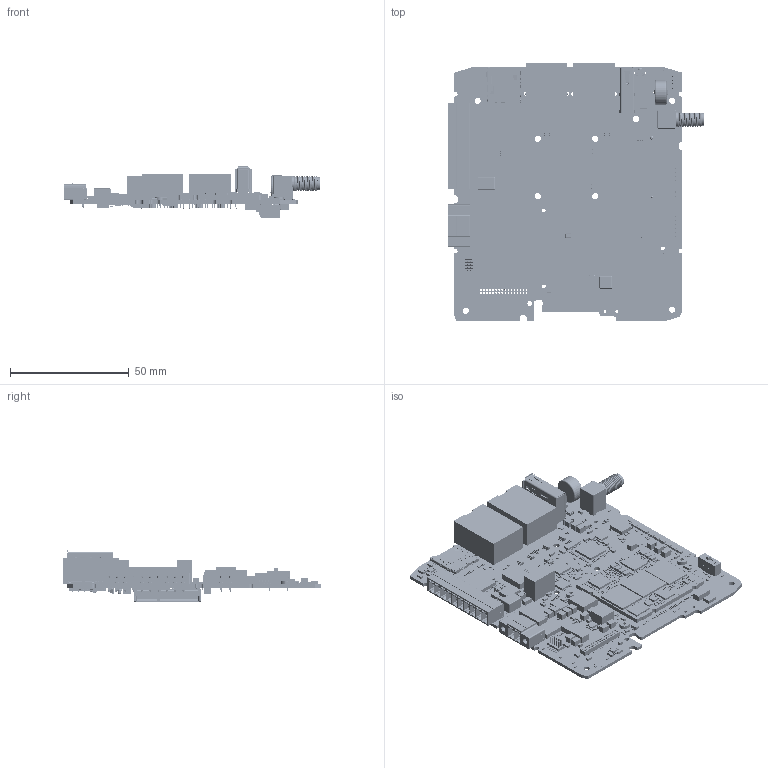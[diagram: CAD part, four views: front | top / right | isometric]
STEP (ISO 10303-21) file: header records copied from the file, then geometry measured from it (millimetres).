
FILE_DESCRIPTION(('STEP AP214'),'1');
FILE_NAME('PBA-CD-19_BoardAndModels.step','2021-01-26T13:56:32',(' '),(' '),'Spatial InterOp 3D','XD3DPlugin XRACreate',' ');
FILE_SCHEMA(('automotive_design'));
Length unit declared in the file: millimetre
Products named in the file (338): Submodel-N:\GROUP\DEVELOP\HARDWARE\PBA-CD-19_phyGATE-Tauri_L_iMX8MM\Design\1556.2\PCB\Layout\3D\Input_S\C0402C270F5GAC_0.xtd; C0402C270F5GAC_0; Submodel-CAP3193_part_simplified_0402-C3; DesignRootModel; Submodel-N:\GROUP\DEVELOP\HARDWARE\PBA-CD-19_phyGATE-Tauri_L_iMX8MM\Design\1556.2\PCB\Layout\3D\Input_S\RCC-0402-1000F.xtd; RCC-0402-1000F; Submodel-RES1982_part_simplified_0402-C3; Submodel-N:\GROUP\DEVELOP\HARDWARE\PBA-CD-19_phyGATE-Tauri_L_iMX8MM\Design\1556.2\PCB\Layout\3D\Input_S\JUMP32.xtd; JUMP32; Submodel-JUMP32_part_simplified_J1X3-0402-C3; Submodel-RES5983_part_simplified_0402-C3; Submodel-N:\GROUP\DEVELOP\HARDWARE\PBA-CD-19_phyGATE-Tauri_L_iMX8MM\Design\1556.2\PCB\Layout\3D\Input_S\xd_sot23_4.xtd; xd_sot23_4; Submodel-TRANSISTOR22_part_simplified_SOT23-FET-C3; Submodel-RES1532_part_simplified_0402-C3; Submodel-N:\GROUP\DEVELOP\HARDWARE\PBA-CD-19_phyGATE-Tauri_L_iMX8MM\Design\1556.2\PCB\Layout\3D\Input_S\pxc_1844294_05_MC-1-5-10-G-3-5_3D.xtd; pxc_1844294_05_MC-1-5-10-G-3-5_3D; Submodel-CONN13573_part_simplified_X1X10-3_comma_5mm-Phoenix-STL1550; Submodel-N:\GROUP\DEVELOP\HARDWARE\PBA-CD-19_phyGATE-Tauri_L_iMX8MM\Design\1556.2\PCB\Layout\3D\Input_S\REMOVE_CONN2292.xtd; REMOVE_CONN2292; Submodel-CONN2292_part_simplified_Testpunkt-1mm; Submodel-RES802_part_simplified_0402-C3; Submodel-RES2002_part_simplified_0402-C3; Submodel-N:\GROUP\DEVELOP\HARDWARE\PBA-CD-19_phyGATE-Tauri_L_iMX8MM\Design\1556.2\PCB\Layout\3D\Input_S\LQM21NN3R3K10L.xtd; LQM21NN3R3K10L; Submodel-FILTER2_part_simplified_0805-C3; Submodel-N:\GROUP\DEVELOP\HARDWARE\PBA-CD-19_phyGATE-Tauri_L_iMX8MM\Design\1556.2\PCB\Layout\3D\Input_S\1210_SMD.xtd; 1210_SMD; Submodel-CAP1122_part_simplified_1210-C3; Submodel-RES1972_part_simplified_0402-C3; Submodel-N:\GROUP\DEVELOP\HARDWARE\PBA-CD-19_phyGATE-Tauri_L_iMX8MM\Design\1556.2\PCB\Layout\3D\Input_S\CC1210KRX7R8BB106.xtd; CC1210KRX7R8BB106; Submodel-CAP3252_part_simplified_1210-C3; Submodel-N:\GROUP\DEVELOP\HARDWARE\PBA-CD-19_phyGATE-Tauri_L_iMX8MM\Design\1556.2\PCB\Layout\3D\Input_S\xd_sot23_7.xtd; xd_sot23_7; Submodel-TRANSISTOR12_part_simplified_SOT23-FET-C3; Submodel-CAP2183_part_simplified_0402-C3; Submodel-N:\GROUP\DEVELOP\HARDWARE\PBA-CD-19_phyGATE-Tauri_L_iMX8MM\Design\1556.2\PCB\Layout\3D\Input_S\MLF2012K390MT.xtd; MLF2012K390MT; Submodel-VARIST2_part_simplified_0805-C3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
Assembly tree (809 placements, depth 5):
  PBA-CD-19_BoardAndModels
    DesignRootModel
      Submodel-CAP3193_part_simplified_0402-C3  x125
        Submodel-N:\GROUP\DEVELOP\HARDWARE\PBA-CD-19_phyGATE-Tauri_L_iMX8MM\Design\1556.2\PCB\Layout\3D\Input_S\C0402C270F5GAC_0.xtd
          C0402C270F5GAC_0
      Submodel-RES1982_part_simplified_0402-C3  x81
        Submodel-N:\GROUP\DEVELOP\HARDWARE\PBA-CD-19_phyGATE-Tauri_L_iMX8MM\Design\1556.2\PCB\Layout\3D\Input_S\RCC-0402-1000F.xtd
          RCC-0402-1000F
      Submodel-JUMP32_part_simplified_J1X3-0402-C3  x11
        Submodel-N:\GROUP\DEVELOP\HARDWARE\PBA-CD-19_phyGATE-Tauri_L_iMX8MM\Design\1556.2\PCB\Layout\3D\Input_S\JUMP32.xtd
          JUMP32
      Submodel-RES5983_part_simplified_0402-C3  x2
        Submodel-N:\GROUP\DEVELOP\HARDWARE\PBA-CD-19_phyGATE-Tauri_L_iMX8MM\Design\1556.2\PCB\Layout\3D\Input_S\RCC-0402-1000F.xtd
          RCC-0402-1000F
      Submodel-TRANSISTOR22_part_simplified_SOT23-FET-C3  x3
        Submodel-N:\GROUP\DEVELOP\HARDWARE\PBA-CD-19_phyGATE-Tauri_L_iMX8MM\Design\1556.2\PCB\Layout\3D\Input_S\xd_sot23_4.xtd
          xd_sot23_4
      Submodel-RES1532_part_simplified_0402-C3  x22
        Submodel-N:\GROUP\DEVELOP\HARDWARE\PBA-CD-19_phyGATE-Tauri_L_iMX8MM\Design\1556.2\PCB\Layout\3D\Input_S\RCC-0402-1000F.xtd
          RCC-0402-1000F
      Submodel-CONN13573_part_simplified_X1X10-3_comma_5mm-Phoenix-STL1550
        Submodel-N:\GROUP\DEVELOP\HARDWARE\PBA-CD-19_phyGATE-Tauri_L_iMX8MM\Design\1556.2\PCB\Layout\3D\Input_S\pxc_1844294_05_MC-1-5-10-G-3-5_3D.xtd
          pxc_1844294_05_MC-1-5-10-G-3-5_3D
      Submodel-CONN2292_part_simplified_Testpunkt-1mm  x38
        Submodel-N:\GROUP\DEVELOP\HARDWARE\PBA-CD-19_phyGATE-Tauri_L_iMX8MM\Design\1556.2\PCB\Layout\3D\Input_S\REMOVE_CONN2292.xtd
          REMOVE_CONN2292
      Submodel-RES802_part_simplified_0402-C3  x7
        Submodel-N:\GROUP\DEVELOP\HARDWARE\PBA-CD-19_phyGATE-Tauri_L_iMX8MM\Design\1556.2\PCB\Layout\3D\Input_S\RCC-0402-1000F.xtd
          RCC-0402-1000F
      Submodel-RES2002_part_simplified_0402-C3  x9
        Submodel-N:\GROUP\DEVELOP\HARDWARE\PBA-CD-19_phyGATE-Tauri_L_iMX8MM\Design\1556.2\PCB\Layout\3D\Input_S\RCC-0402-1000F.xtd
          RCC-0402-1000F
      Submodel-FILTER2_part_simplified_0805-C3  x9
        Submodel-N:\GROUP\DEVELOP\HARDWARE\PBA-CD-19_phyGATE-Tauri_L_iMX8MM\Design\1556.2\PCB\Layout\3D\Input_S\LQM21NN3R3K10L.xtd
          LQM21NN3R3K10L
      Submodel-CAP1122_part_simplified_1210-C3  x13
        Submodel-N:\GROUP\DEVELOP\HARDWARE\PBA-CD-19_phyGATE-Tauri_L_iMX8MM\Design\1556.2\PCB\Layout\3D\Input_S\1210_SMD.xtd
          1210_SMD
      Submodel-RES1972_part_simplified_0402-C3  x16
        Submodel-N:\GROUP\DEVELOP\HARDWARE\PBA-CD-19_phyGATE-Tauri_L_iMX8MM\Design\1556.2\PCB\Layout\3D\Input_S\RCC-0402-1000F.xtd
          RCC-0402-1000F
      Submodel-CAP3252_part_simplified_1210-C3  x7
        Submodel-N:\GROUP\DEVELOP\HARDWARE\PBA-CD-19_phyGATE-Tauri_L_iMX8MM\Design\1556.2\PCB\Layout\3D\Input_S\CC1210KRX7R8BB106.xtd
          CC1210KRX7R8BB106
      Submodel-TRANSISTOR12_part_simplified_SOT23-FET-C3  x9
        Submodel-N:\GROUP\DEVELOP\HARDWARE\PBA-CD-19_phyGATE-Tauri_L_iMX8MM\Design\1556.2\PCB\Layout\3D\Input_S\xd_sot23_7.xtd
          xd_sot23_7
      Submodel-CAP2183_part_simplified_0402-C3  x4
        Submodel-N:\GROUP\DEVELOP\HARDWARE\PBA-CD-19_phyGATE-Tauri_L_iMX8MM\Design\1556.2\PCB\Layout\3D\Input_S\C0402C270F5GAC_0.xtd
          C0402C270F5GAC_0
      Submodel-VARIST2_part_simplified_0805-C3  x6
        Submodel-N:\GROUP\DEVELOP\HARDWARE\PBA-CD-19_phyGATE-Tauri_L_iMX8MM\Design\1556.2\PCB\Layout\3D\Input_S\MLF2012K390MT.xtd
          MLF2012K390MT
      Submodel-CONN11843_part_simplified_X2X16-1_comma_27-CLP-Samtec
        Submodel-N:\GROUP\DEVELOP\HARDWARE\PBA-CD-19_phyGATE-Tauri_L_iMX8MM\Design\1556.2\PCB\Layout\3D\Input_S\CLP-116-02-F-D-BE _lpar_1_rpar_.xtd
          CLP-116-02-F-D-BE (1)
      Submodel-RES1022_part_simplified_0402-C3  x7
        Submodel-N:\GROUP\DEVELOP\HARDWARE\PBA-CD-19_phyGATE-Tauri_L_iMX8MM\Design\1556.2\PCB\Layout\3D\Input_S\RCC-0402-1000F.xtd
          RCC-0402-1000F
      Submodel-CAP3453_part_simplified_0402-C3  x2
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Bounding box: 107.88 x 109.15 x 21.86 mm (x, y, z)
Volume: 32526.6 mm3; surface area: 61865.8 mm2
Topology: 1528 solids, 3511 shells, 21357 faces, 58682 edges, 42125 vertices
Faces by surface type: plane 15814, cylinder 2689, sphere 1788, bspline 724, torus 292, cone 50
Full cylindrical faces by diameter (mm): 0.5 x2, 0.8 x32, 0.9 x30, 1 x6, 1.1 x1, 1.2 x16, 1.27 x4, 1.3 x12, 1.5 x5, 1.567 x3, 1.6 x5, 1.7 x4, 2.1 x1, 2.4 x2, 2.6 x9, 2.8 x3, 3 x4, 3.4 x4, 3.5 x1, 4.06 x1, 4.158 x1, 4.35 x3, 4.95 x1, 5.35 x1, 5.6 x1, 6.33 x1, 6.5 x1
Entity records: 723216 total; most frequent: CARTESIAN_POINT 125205, DIRECTION 86070, ORIENTED_EDGE 79630, EDGE_CURVE 43527, LINE 33100, VECTOR 33100, VERTEX_POINT 31418, AXIS2_PLACEMENT_3D 26485
